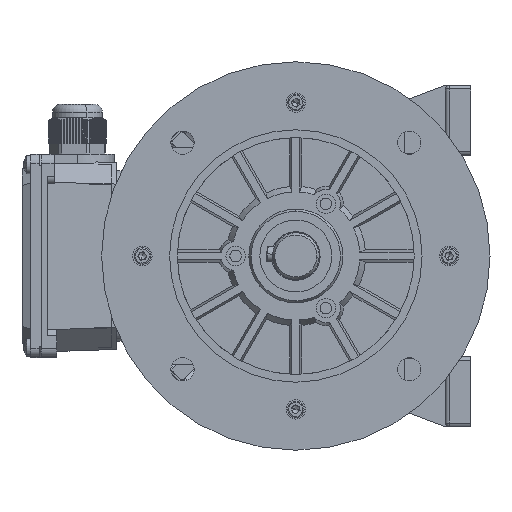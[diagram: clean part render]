
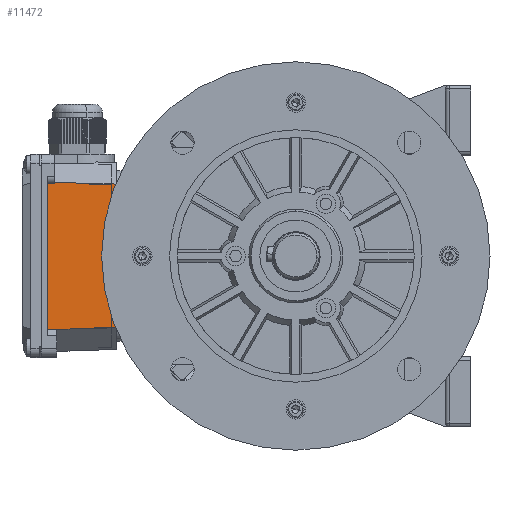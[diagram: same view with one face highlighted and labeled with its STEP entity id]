
A CAD part, left-side view. The second image highlights one B-rep face of the part: STEP entity #11472.
In plain terms, the highlighted planar face has unit normal (-0.999, -0.035, 0.001) as drawn and (-0.035, -0.001, 0.999) by its records, which use the part's own axes.
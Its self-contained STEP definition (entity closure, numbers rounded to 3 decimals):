
#206 = DIRECTION ( 'NONE',  ( 0., -1., -0.001 ) ) ;
#1811 = CARTESIAN_POINT ( 'NONE',  ( 30.5, 37.727, 49.151 ) ) ;
#2680 = DIRECTION ( 'NONE',  ( 0.999, 0.027, 0.035 ) ) ;
#7168 = ORIENTED_EDGE ( 'NONE', *, *, #29292, .F. ) ;
#8130 = ORIENTED_EDGE ( 'NONE', *, *, #9185, .T. ) ;
#9185 = EDGE_CURVE ( 'NONE', #109191, #71188, #84596, .T. ) ;
#11205 = DIRECTION ( 'NONE',  ( 0., -1., -0.001 ) ) ;
#11472 = ADVANCED_FACE ( 'NONE', ( #44518 ), #62230, .F. ) ;
#12201 = CARTESIAN_POINT ( 'NONE',  ( 0., 87.477, 48.147 ) ) ;
#14711 = CARTESIAN_POINT ( 'NONE',  ( 40.5, 38.036, 49.5 ) ) ;
#18945 =( BOUNDED_CURVE ( )  B_SPLINE_CURVE ( 3, ( #104899, #92823, #80751, #68657 ),
 .UNSPECIFIED., .F., .F. ) 
 B_SPLINE_CURVE_WITH_KNOTS ( ( 4, 4 ),
 ( 1.693, 1.726 ),
 .UNSPECIFIED. ) 
 CURVE ( )  GEOMETRIC_REPRESENTATION_ITEM ( )  RATIONAL_B_SPLINE_CURVE ( ( 1., 1., 1., 1. ) ) 
 REPRESENTATION_ITEM ( '' )  );
#19386 = VECTOR ( 'NONE', #55236, 1000. ) ;
#23222 = CARTESIAN_POINT ( 'NONE',  ( 35.5, -49.393, 49.219 ) ) ;
#26051 = DIRECTION ( 'NONE',  ( -0.999, 0., -0.035 ) ) ;
#26751 = LINE ( 'NONE', #14711, #29634 ) ;
#26831 = EDGE_CURVE ( 'NONE', #109191, #39936, #26751, .T. ) ;
#29292 = EDGE_CURVE ( 'NONE', #65418, #60802, #35305, .T. ) ;
#29634 = VECTOR ( 'NONE', #2680, 1000. ) ;
#33852 = VECTOR ( 'NONE', #64299, 1000. ) ;
#34121 = EDGE_CURVE ( 'NONE', #57087, #65418, #68410, .T. ) ;
#35305 = LINE ( 'NONE', #23222, #51957 ) ;
#38097 = DIRECTION ( 'NONE',  ( 0.035, 0.001, -0.999 ) ) ;
#39936 = VERTEX_POINT ( 'NONE', #93261 ) ;
#42395 = VERTEX_POINT ( 'NONE', #74583 ) ;
#44301 = DIRECTION ( 'NONE',  ( 0.999, 0.035, 0.035 ) ) ;
#44518 = FACE_OUTER_BOUND ( 'NONE', #90603, .T. ) ;
#44796 = VECTOR ( 'NONE', #44301, 1000. ) ;
#45557 = ORIENTED_EDGE ( 'NONE', *, *, #34121, .F. ) ;
#46375 = VECTOR ( 'NONE', #79252, 1000. ) ;
#50143 = CARTESIAN_POINT ( 'NONE',  ( 43.553, -49.393, 49.5 ) ) ;
#51957 = VECTOR ( 'NONE', #11205, 1000. ) ;
#53345 = ORIENTED_EDGE ( 'NONE', *, *, #26831, .F. ) ;
#54766 = ORIENTED_EDGE ( 'NONE', *, *, #62222, .F. ) ;
#55165 = CARTESIAN_POINT ( 'NONE',  ( 35.5, -37.116, 49.234 ) ) ;
#55236 = DIRECTION ( 'NONE',  ( 0., -1., -0.001 ) ) ;
#56327 = CARTESIAN_POINT ( 'NONE',  ( 40.497, 38.076, 49.5 ) ) ;
#56642 = AXIS2_PLACEMENT_3D ( 'NONE', #50143, #38097, #26051 ) ;
#57087 = VERTEX_POINT ( 'NONE', #1811 ) ;
#58534 = EDGE_CURVE ( 'NONE', #112914, #42395, #79390, .T. ) ;
#59295 = CARTESIAN_POINT ( 'NONE',  ( 31.875, -37.099, 49.107 ) ) ;
#60802 = VERTEX_POINT ( 'NONE', #55165 ) ;
#60892 = ORIENTED_EDGE ( 'NONE', *, *, #92827, .T. ) ;
#62222 = EDGE_CURVE ( 'NONE', #42395, #71188, #103436, .T. ) ;
#62230 = PLANE ( 'NONE',  #56642 ) ;
#64299 = DIRECTION ( 'NONE',  ( 0., -1., -0.001 ) ) ;
#65418 = VERTEX_POINT ( 'NONE', #104942 ) ;
#67300 = CARTESIAN_POINT ( 'NONE',  ( 31.875, -49.393, 49.092 ) ) ;
#68410 = LINE ( 'NONE', #56327, #44796 ) ;
#68657 = CARTESIAN_POINT ( 'NONE',  ( 35.5, -37.116, 49.234 ) ) ;
#70330 = EDGE_CURVE ( 'NONE', #39936, #57087, #88441, .T. ) ;
#71188 = VERTEX_POINT ( 'NONE', #74675 ) ;
#71440 = CARTESIAN_POINT ( 'NONE',  ( 0., 36.95, 48.085 ) ) ;
#71946 = ORIENTED_EDGE ( 'NONE', *, *, #70330, .F. ) ;
#74583 = CARTESIAN_POINT ( 'NONE',  ( 31.875, -37.897, 49.106 ) ) ;
#74675 = CARTESIAN_POINT ( 'NONE',  ( 0., -37.04, 47.995 ) ) ;
#76354 = CARTESIAN_POINT ( 'NONE',  ( 30.5, -49.393, 49.044 ) ) ;
#79252 = DIRECTION ( 'NONE',  ( -0.999, 0.027, -0.035 ) ) ;
#79390 = LINE ( 'NONE', #67300, #19386 ) ;
#80751 = CARTESIAN_POINT ( 'NONE',  ( 34.294, -37.11, 49.192 ) ) ;
#84596 = LINE ( 'NONE', #12201, #104573 ) ;
#88441 = LINE ( 'NONE', #76354, #33852 ) ;
#90603 = EDGE_LOOP ( 'NONE', ( #45557, #71946, #53345, #8130, #54766, #110267, #60892, #7168 ) ) ;
#91328 = CARTESIAN_POINT ( 'NONE',  ( 40.501, -38.128, 49.407 ) ) ;
#92823 = CARTESIAN_POINT ( 'NONE',  ( 33.086, -37.104, 49.15 ) ) ;
#92827 = EDGE_CURVE ( 'NONE', #112914, #60802, #18945, .T. ) ;
#93261 = CARTESIAN_POINT ( 'NONE',  ( 30.5, 37.767, 49.151 ) ) ;
#103436 = LINE ( 'NONE', #91328, #46375 ) ;
#104573 = VECTOR ( 'NONE', #206, 1000. ) ;
#104899 = CARTESIAN_POINT ( 'NONE',  ( 31.875, -37.099, 49.107 ) ) ;
#104942 = CARTESIAN_POINT ( 'NONE',  ( 35.5, 37.901, 49.325 ) ) ;
#109191 = VERTEX_POINT ( 'NONE', #71440 ) ;
#110267 = ORIENTED_EDGE ( 'NONE', *, *, #58534, .F. ) ;
#112914 = VERTEX_POINT ( 'NONE', #59295 ) ;
